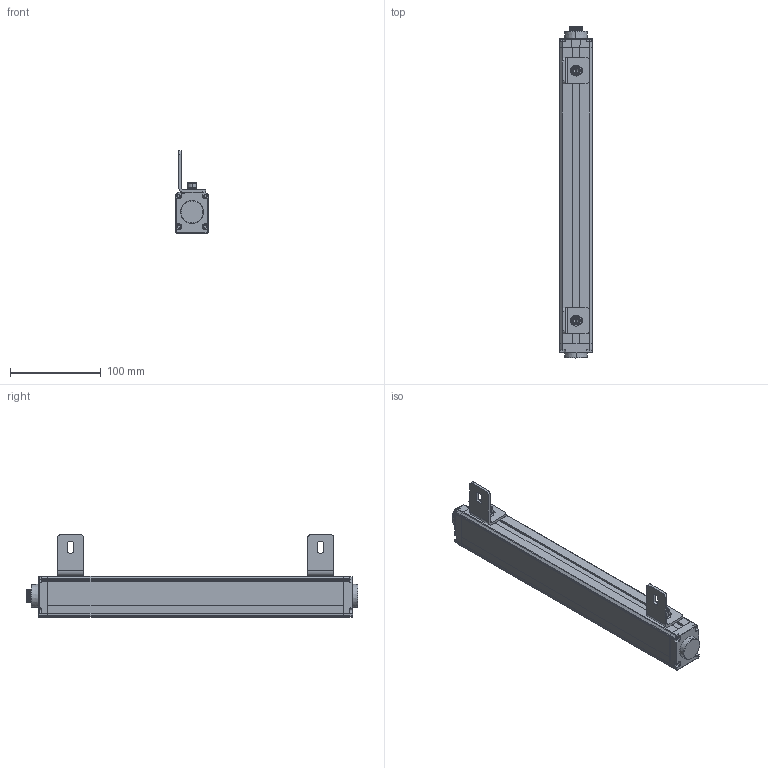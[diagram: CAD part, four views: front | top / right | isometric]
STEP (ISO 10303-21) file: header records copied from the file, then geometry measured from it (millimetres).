
FILE_DESCRIPTION((''),'2;1');
FILE_NAME('ESCL-00_ASM','2021-07-16T14:59:17',('18720616900'),(''),'CREO PARAMETRIC BY PTC INC, 2019010','CREO PARAMETRIC BY PTC INC, 2019010','');
FILE_SCHEMA(('CONFIG_CONTROL_DESIGN'));
Products named in the file (12): ESCL-00; ESCL-3-SOLID1000; ESCL-4-SOLID1000; HKCT1_-4-SOLID1; L10001; M6-8--0001; M6-1--00; M6-1-00; 00; M6-80001_ASM; L1--0001_ASM; ESCL-00_ASM
Assembly tree (12 placements, depth 4):
  ESCL-00_ASM
    ESCL-00
    ESCL-3-SOLID1000
    ESCL-4-SOLID1000
    HKCT1_-4-SOLID1
    L1--0001_ASM  x2
      L10001
      M6-80001_ASM
        M6-8--0001
        M6-1--00
        M6-1-00
        00
Bounding box: 36.1 x 365.1 x 91.11 mm (x, y, z)
Volume: 522876.5 mm3; surface area: 91148.7 mm2
Topology: 14 solids, 14 shells, 629 faces, 1657 edges, 1078 vertices
Faces by surface type: plane 228, cylinder 210, cone 78, bspline 66, torus 47
Entity records: 76313 total; most frequent: CARTESIAN_POINT 64015, ORIENTED_EDGE 2688, DIRECTION 2299, EDGE_CURVE 1344, VERTEX_POINT 880, AXIS2_PLACEMENT_3D 824, VECTOR 651, LINE 651
